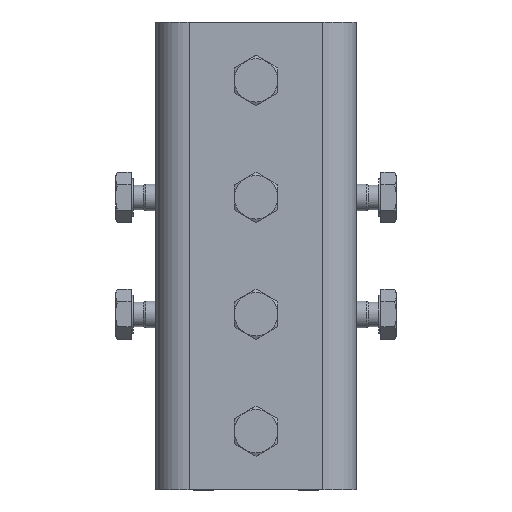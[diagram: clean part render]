
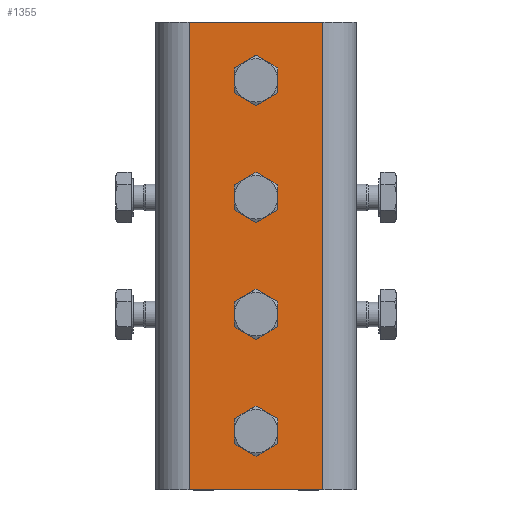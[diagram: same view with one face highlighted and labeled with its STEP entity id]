
A CAD part, top view. The second image highlights one B-rep face of the part: STEP entity #1355.
In plain terms, the highlighted planar face has unit normal (0, 0, 1).
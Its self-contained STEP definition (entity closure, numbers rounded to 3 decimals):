
#75=FACE_BOUND('',#245,.T.);
#76=FACE_BOUND('',#246,.T.);
#77=FACE_BOUND('',#247,.T.);
#78=FACE_BOUND('',#248,.T.);
#153=FACE_OUTER_BOUND('',#244,.T.);
#244=EDGE_LOOP('',(#953,#954,#955,#956));
#245=EDGE_LOOP('',(#957));
#246=EDGE_LOOP('',(#958));
#247=EDGE_LOOP('',(#959));
#248=EDGE_LOOP('',(#960));
#380=LINE('',#2083,#480);
#382=LINE('',#2087,#482);
#383=LINE('',#2089,#483);
#384=LINE('',#2090,#484);
#480=VECTOR('',#1640,140.);
#482=VECTOR('',#1644,40.);
#483=VECTOR('',#1645,140.);
#484=VECTOR('',#1646,40.);
#578=CIRCLE('',#1454,3.324);
#579=CIRCLE('',#1455,3.324);
#580=CIRCLE('',#1456,3.324);
#581=CIRCLE('',#1457,3.324);
#646=VERTEX_POINT('',#2067);
#649=VERTEX_POINT('',#2074);
#651=VERTEX_POINT('',#2086);
#652=VERTEX_POINT('',#2088);
#653=VERTEX_POINT('',#2091);
#654=VERTEX_POINT('',#2093);
#655=VERTEX_POINT('',#2095);
#656=VERTEX_POINT('',#2097);
#766=EDGE_CURVE('',#646,#649,#380,.T.);
#768=EDGE_CURVE('',#649,#651,#382,.T.);
#769=EDGE_CURVE('',#651,#652,#383,.T.);
#770=EDGE_CURVE('',#652,#646,#384,.T.);
#771=EDGE_CURVE('',#653,#653,#578,.T.);
#772=EDGE_CURVE('',#654,#654,#579,.T.);
#773=EDGE_CURVE('',#655,#655,#580,.T.);
#774=EDGE_CURVE('',#656,#656,#581,.T.);
#953=ORIENTED_EDGE('',*,*,#766,.T.);
#954=ORIENTED_EDGE('',*,*,#768,.T.);
#955=ORIENTED_EDGE('',*,*,#769,.T.);
#956=ORIENTED_EDGE('',*,*,#770,.T.);
#957=ORIENTED_EDGE('',*,*,#771,.T.);
#958=ORIENTED_EDGE('',*,*,#772,.T.);
#959=ORIENTED_EDGE('',*,*,#773,.T.);
#960=ORIENTED_EDGE('',*,*,#774,.T.);
#1301=PLANE('',#1453);
#1355=ADVANCED_FACE('',(#153,#75,#76,#77,#78),#1301,.T.);
#1453=AXIS2_PLACEMENT_3D('',#2085,#1642,#1643);
#1454=AXIS2_PLACEMENT_3D('',#2092,#1647,#1648);
#1455=AXIS2_PLACEMENT_3D('',#2094,#1649,#1650);
#1456=AXIS2_PLACEMENT_3D('',#2096,#1651,#1652);
#1457=AXIS2_PLACEMENT_3D('',#2098,#1653,#1654);
#1640=DIRECTION('',(0.,1.,0.));
#1642=DIRECTION('center_axis',(0.,0.,1.));
#1643=DIRECTION('ref_axis',(1.,0.,0.));
#1644=DIRECTION('',(-1.,0.,0.));
#1645=DIRECTION('',(0.,-1.,0.));
#1646=DIRECTION('',(1.,0.,0.));
#1647=DIRECTION('center_axis',(0.,0.,-1.));
#1648=DIRECTION('ref_axis',(1.,0.,0.));
#1649=DIRECTION('center_axis',(0.,0.,-1.));
#1650=DIRECTION('ref_axis',(1.,0.,0.));
#1651=DIRECTION('center_axis',(0.,0.,-1.));
#1652=DIRECTION('ref_axis',(1.,0.,0.));
#1653=DIRECTION('center_axis',(0.,0.,-1.));
#1654=DIRECTION('ref_axis',(1.,0.,0.));
#2067=CARTESIAN_POINT('',(20.,-70.,0.));
#2074=CARTESIAN_POINT('',(20.,70.,0.));
#2083=CARTESIAN_POINT('',(20.,35.,0.));
#2085=CARTESIAN_POINT('Origin',(78.672,0.,0.));
#2086=CARTESIAN_POINT('',(-20.,70.,0.));
#2087=CARTESIAN_POINT('',(81.679,70.,0.));
#2088=CARTESIAN_POINT('',(-20.,-70.,0.));
#2089=CARTESIAN_POINT('',(-20.,-35.,0.));
#2090=CARTESIAN_POINT('',(-81.679,-70.,0.));
#2091=CARTESIAN_POINT('',(3.323,52.5,0.));
#2092=CARTESIAN_POINT('Origin',(0.,52.5,0.));
#2093=CARTESIAN_POINT('',(3.324,-52.5,0.));
#2094=CARTESIAN_POINT('Origin',(0.,-52.5,0.));
#2095=CARTESIAN_POINT('',(3.324,17.5,0.));
#2096=CARTESIAN_POINT('Origin',(0.,17.5,0.));
#2097=CARTESIAN_POINT('',(3.324,-17.5,0.));
#2098=CARTESIAN_POINT('Origin',(0.,-17.5,0.));
